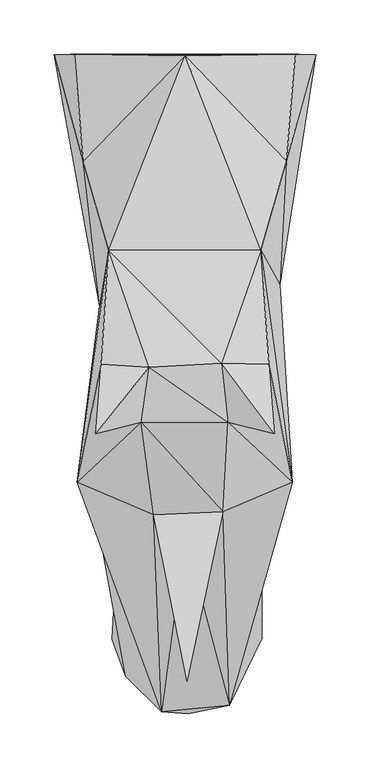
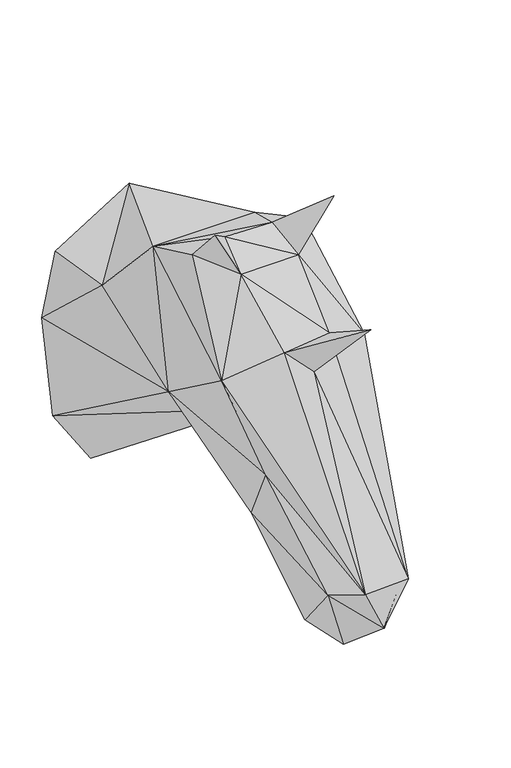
"""IFC4 building model written with IfcOpenShell, lengths in millimetres: geographic element geometry, Enscape AssetDefinition - Unicorn Papertrophy : Enscape AssetDefinition - Unicorn Papertrophy."""

import ifcopenshell
import ifcopenshell.guid

model = None  # the IFC model being written
_history = None  # IfcOwnerHistory: only IFC2X3 demands one
_inside = {}  # id of a spatial element -> (the spatial element, [elements in it])
_under = {}  # id of a project, library or spatial element -> (it, [spatial elements below it])
_declared = {}  # id of a project -> (the project, [libraries it declares])
_typed = {}  # id of a type object -> (the type object, [elements of that type])
_made_of = {}  # id of a material, layer set ... -> (it, [elements and type objects made of it])


def new_model(schema):
    """Start an empty IFC model of exactly this schema.

    Asked for "IFC4X3", IfcOpenShell would pick the latest addendum, in which some entities
    have other attributes; the version numbers below select the first issue.
    IFC2X3 requires an IfcOwnerHistory on every rooted entity: one is made here for all.
    """
    global model, _history
    if schema == "IFC4X3":
        model = ifcopenshell.file(schema_version=(4, 3, 0, 0))
    else:
        model = ifcopenshell.file(schema=schema)
    _inside.clear()
    _under.clear()
    _declared.clear()
    _typed.clear()
    _made_of.clear()
    _history = None
    if model.schema == "IFC2X3":
        org = make("IfcOrganization", Name="unknown")
        user = make(
            "IfcPersonAndOrganization",
            ThePerson=make("IfcPerson", FamilyName="unknown"),
            TheOrganization=org,
        )
        app = make(
            "IfcApplication",
            ApplicationDeveloper=org,
            Version="unknown",
            ApplicationFullName="unknown",
            ApplicationIdentifier="unknown",
        )
        _history = make(
            "IfcOwnerHistory",
            OwningUser=user,
            OwningApplication=app,
            ChangeAction="ADDED",
            CreationDate=0,
        )
    return model


def make(cls, **values):
    """One entity of the class cls with the attributes given. An attribute that is None is left unset."""
    return model.create_entity(
        cls, **{name: value for name, value in values.items() if value is not None}
    )


def rooted(cls, **values):
    """An entity with a GlobalId (a new one), such as an element, a storey or a relation."""
    return make(cls, GlobalId=ifcopenshell.guid.new(), OwnerHistory=_history, **values)


def si_unit(unit_type, name, prefix=None):
    """IfcSIUnit, for example si_unit("LENGTHUNIT", "METRE", prefix="MILLI")."""
    return make("IfcSIUnit", UnitType=unit_type, Prefix=prefix, Name=name)


def assignment(units):
    """IfcUnitAssignment: the units of a project."""
    return None if units is None else make("IfcUnitAssignment", Units=units)


def point(xyz):
    """IfcCartesianPoint."""
    return None if xyz is None else make("IfcCartesianPoint", Coordinates=xyz)


def direction(xyz):
    """IfcDirection."""
    return None if xyz is None else make("IfcDirection", DirectionRatios=xyz)


def frame(location, z_axis=None, x_axis=None):
    """IfcAxis2Placement3D, a coordinate frame: its origin and axes. An axis left out is left unset."""
    return make(
        "IfcAxis2Placement3D",
        Location=point(location),
        Axis=direction(z_axis),
        RefDirection=direction(x_axis),
    )


def origin():
    """The frame at (0, 0, 0) with its axes left unset."""
    return frame((0.0, 0.0, 0.0))


def place(relative_to, where):
    """IfcLocalPlacement: puts the frame where relative to a parent placement (None: the world)."""
    return make(
        "IfcLocalPlacement", PlacementRelTo=relative_to, RelativePlacement=where
    )


def context(
    kind, dimensions, precision=None, world=None, true_north=None, identifier=None
):
    """IfcGeometricRepresentationContext, for example the 3D "Model" context."""
    return make(
        "IfcGeometricRepresentationContext",
        ContextIdentifier=identifier,
        ContextType=kind,
        CoordinateSpaceDimension=dimensions,
        Precision=precision,
        WorldCoordinateSystem=world,
        TrueNorth=true_north,
    )


def project(units=None, contexts=None):
    """IfcProject with its units and contexts."""
    return rooted(
        "IfcProject",
        Name="project",
        RepresentationContexts=contexts,
        UnitsInContext=assignment(units),
    )


def spatial(cls, under=None, at=None, **own):
    """A site, building, storey or space (cls), placed at a placement, below another one or the project."""
    s = rooted(cls, ObjectPlacement=at, **own)
    if under is not None:
        _under.setdefault(under.id(), (under, []))[1].append(s)
    return s


def faces_of(points, faces, orient=None, outer=None):
    """IfcFace entities. A face is a list of loops; a loop is a list of indices into points, from 0.

    orient and outer hold one flag for each loop. By default every Orientation is true, the
    first loop of a face is its IfcFaceOuterBound and the others are IfcFaceBound.
    """
    made = []
    for i, loops in enumerate(faces):
        bounds = []
        for j, loop in enumerate(loops):
            is_outer = j == 0 if outer is None else outer[i][j]
            bounds.append(
                make(
                    "IfcFaceOuterBound" if is_outer else "IfcFaceBound",
                    Bound=make("IfcPolyLoop", Polygon=[points[k] for k in loop]),
                    Orientation=True if orient is None else orient[i][j],
                )
            )
        made.append(make("IfcFace", Bounds=bounds))
    return made


def faceted_brep(points, faces, orient=None, outer=None, voids=None):
    """IfcFacetedBrep: a solid bounded by flat faces; with voids (closed shells), ...WithVoids."""
    shared = [point(p) for p in points]
    hull = make("IfcClosedShell", CfsFaces=faces_of(shared, faces, orient, outer))
    if voids is None:
        return make("IfcFacetedBrep", Outer=hull)
    return make(
        "IfcFacetedBrepWithVoids",
        Outer=hull,
        Voids=[
            make(cls, CfsFaces=faces_of(shared, fs, o, b)) for cls, fs, o, b in voids
        ],
    )


def shape(context_of_items, identifier, shape_type, items):
    """IfcShapeRepresentation: the items that make up one representation, for example the "Body"."""
    return make(
        "IfcShapeRepresentation",
        ContextOfItems=context_of_items,
        RepresentationIdentifier=identifier,
        RepresentationType=shape_type,
        Items=items,
    )


def source(mapping_origin, context_of_items, identifier, shape_type, items):
    """IfcRepresentationMap: a shape defined once, which mapped items show again and again."""
    return make(
        "IfcRepresentationMap",
        MappingOrigin=mapping_origin,
        MappedRepresentation=shape(context_of_items, identifier, shape_type, items),
    )


def transform(
    local_origin,
    x_axis=None,
    y_axis=None,
    z_axis=None,
    scale=None,
    scale2=None,
    scale3=None,
    uniform=True,
):
    """IfcCartesianTransformationOperator3D, or its non-uniform kind. x_axis, y_axis, z_axis: its Axis1, 2, 3."""
    if uniform:
        return make(
            "IfcCartesianTransformationOperator3D",
            Axis1=direction(x_axis),
            Axis2=direction(y_axis),
            LocalOrigin=point(local_origin),
            Scale=scale,
            Axis3=direction(z_axis),
        )
    return make(
        "IfcCartesianTransformationOperator3DnonUniform",
        Axis1=direction(x_axis),
        Axis2=direction(y_axis),
        LocalOrigin=point(local_origin),
        Scale=scale,
        Axis3=direction(z_axis),
        Scale2=scale2,
        Scale3=scale3,
    )


def mapped(mapping_source, mapping_target):
    """IfcMappedItem: shows the shape of a source again, moved by a transform."""
    return make(
        "IfcMappedItem", MappingSource=mapping_source, MappingTarget=mapping_target
    )


def made_of(thing, what):
    """Note that an element or type object is made of a material, layer set ...; save() writes the relation."""
    if what is not None:
        _made_of.setdefault(what.id(), (what, []))[1].append(thing)
    return thing


def element(
    cls,
    number,
    at=None,
    inside=None,
    cuts=None,
    type_object=None,
    material=None,
    context=None,
    identifier="Body",
    shape_type=None,
    held_by="IfcProductDefinitionShape",
    body=None,
    shapes=None,
    **own,
):
    """One element of the class cls, such as IfcWall. Its Tag is "e" and its number.

    at: its placement. inside: the storey or other place that contains it. cuts: it is an
    opening in that element (IfcRelVoidsElement). A single representation is given by context,
    identifier, shape_type and body (its items); several are given by shapes. held_by: the class
    of the entity that holds the representations. save() writes the other relations.
    """
    e = rooted(cls, Tag="e%d" % number, ObjectPlacement=at, **own)
    if body is not None:
        shapes = [shape(context, identifier, shape_type, body)]
    if shapes is not None:
        e.Representation = make(held_by, Representations=shapes)
    if inside is not None:
        _inside.setdefault(inside.id(), (inside, []))[1].append(e)
    if cuts is not None:
        rooted(
            "IfcRelVoidsElement", RelatingBuildingElement=cuts, RelatedOpeningElement=e
        )
    if type_object is not None:
        _typed.setdefault(type_object.id(), (type_object, []))[1].append(e)
    return made_of(e, material)


def aggregate(whole, parts):
    """IfcRelAggregates: a whole, such as a stair, and the parts it consists of."""
    return rooted("IfcRelAggregates", RelatingObject=whole, RelatedObjects=parts)


def save(model, path):
    """Write the relations noted so far, then the file.

    IfcRelAggregates (storeys below a building ...), IfcRelContainedInSpatialStructure (elements
    in a storey), IfcRelDefinesByType, IfcRelAssociatesMaterial and IfcRelDeclares: one each for
    every whole, place, type object, material and project.
    """
    for whole, parts in _under.values():
        aggregate(whole, parts)
    for where, things in _inside.values():
        rooted(
            "IfcRelContainedInSpatialStructure",
            RelatedElements=things,
            RelatingStructure=where,
        )
    for kind, things in _typed.values():
        rooted("IfcRelDefinesByType", RelatedObjects=things, RelatingType=kind)
    for what, things in _made_of.values():
        rooted("IfcRelAssociatesMaterial", RelatedObjects=things, RelatingMaterial=what)
    for by, libraries in _declared.values():
        rooted("IfcRelDeclares", RelatingContext=by, RelatedDefinitions=libraries)
    model.write(path)


def geographic_element_b0080944(model_context):
    return source(origin(), model_context, "Body", "Brep", [
        faceted_brep([(2.7663175, -607.010901, -252.8979778), (-21.7252467, -605.2155495, -195.9536374), (-54.6941347, -572.2087026, -205.2879781), (-75.4251555, -458.3463669, -90.4293358), (-99.3541703, -393.4429288, 16.0955135), (0.0, -443.8720345, 25.1026694), (-29.1017424, -423.5621095, 50.7161692), (41.3068905, -598.9779234, -198.5795796), (-59.4140813, -395.857811, -189.0499741), (-78.7234157, -230.6386828, -106.1111242), (0.0, -486.9277775, -297.3004878), (-67.1652555, -538.1811857, -257.5662136), (45.061104, -415.6695306, -206.9629729), (19.0507546, -243.1678474, -157.978788), (30.6880735, -559.7323179, -290.9224331), (-26.3259262, -560.122788, -294.7716415), (70.930019, -537.2882485, -239.7556007), (71.2339878, -462.208271, -105.8272049), (87.9775435, -211.1309022, -93.5144052), (99.2876738, -393.4967816, 15.9857478), (35.0861065, -420.5498695, 55.7189733), (39.5991839, -338.0247653, 118.4619218), (70.4360753, -179.2934537, 73.6298487), (77.550821, -284.6341133, 127.3413599), (-70.4202428, -179.2860627, 73.6741796), (33.988446, -283.688426, 135.5696023), (93.8521475, -97.1050262, -25.0319541), (0.0, 0.0, 32.6512009), (82.6369971, -348.5939503, 196.666047), (-33.0311581, -287.0637476, 139.4747496), (-77.550821, -284.6341133, 127.3413599), (-40.2873345, -337.8326595, 118.2656139), (-82.6369971, -348.5939503, 196.666047), (-105.5601835, 1.6032186, -272.5450397), (-93.8521475, -97.1050262, -25.0319541), (-120.8503917, 1.1261582, -122.8251308), (-52.8724417, 1.6032186, -353.33395), (105.5601835, 1.6032186, -272.5450397), (52.8724417, 1.6032186, -353.33395), (120.8503917, 1.1261582, -122.8251308), (-102.0930484, 1.6084958, -32.825347), (102.0930484, 1.6084958, -32.825347), (1.9947882, -577.0140886, 166.9711471)], [[[0, 1, 2]], [[3, 1, 4]], [[2, 1, 3]], [[5, 6, 1]], [[0, 7, 1]], [[7, 5, 1]], [[1, 6, 4]], [[8, 3, 9]], [[8, 2, 3]], [[9, 3, 4]], [[8, 10, 11]], [[12, 10, 8]], [[11, 2, 8]], [[13, 8, 9]], [[12, 8, 13]], [[14, 15, 10]], [[10, 16, 14]], [[12, 16, 10]], [[10, 15, 11]], [[15, 2, 11]], [[15, 14, 0]], [[0, 2, 15]], [[14, 16, 0]], [[0, 16, 7]], [[17, 16, 12]], [[7, 16, 17]], [[13, 17, 12]], [[18, 17, 13]], [[17, 18, 19]], [[19, 7, 17]], [[19, 20, 7]], [[7, 20, 5]], [[20, 19, 21]], [[19, 22, 23]], [[18, 22, 19]], [[21, 19, 23]], [[24, 25, 22]], [[22, 26, 27]], [[18, 26, 22]], [[22, 25, 23]], [[24, 22, 27]], [[25, 28, 23]], [[21, 23, 28]], [[29, 25, 24]], [[25, 29, 21]], [[21, 28, 25]], [[29, 24, 30]], [[21, 29, 31]], [[31, 29, 32]], [[32, 29, 30]], [[30, 24, 4]], [[30, 4, 31]], [[30, 31, 32]], [[20, 31, 6]], [[21, 31, 20]], [[6, 31, 4]], [[4, 24, 9]], [[33, 13, 9]], [[34, 9, 24]], [[9, 35, 33]], [[34, 35, 9]], [[36, 13, 33]], [[36, 33, 35]], [[37, 13, 38]], [[18, 13, 37]], [[36, 38, 13]], [[36, 39, 38]], [[36, 27, 39]], [[36, 35, 27]], [[34, 40, 35]], [[27, 35, 40]], [[34, 27, 40]], [[24, 27, 34]], [[27, 26, 41]], [[39, 27, 41]], [[26, 39, 41]], [[18, 39, 26]], [[37, 39, 18]], [[38, 39, 37]], [[42, 6, 5]], [[42, 20, 6]], [[42, 5, 20]]]),
    ])


if __name__ == "__main__":
    model = new_model("IFC4")
    model_context = context("Model", 3, world=origin())
    ifc_project = project(units=[si_unit("LENGTHUNIT", "METRE", prefix="MILLI")], contexts=[model_context])
    site = spatial("IfcSite", under=ifc_project)
    building = spatial("IfcBuilding", under=site)
    placement = place(None, origin())
    geographic_element_shape = geographic_element_b0080944(model_context)
    element("IfcGeographicElement", 1, ObjectType="Enscape AssetDefinition - Unicorn Papertrophy : Enscape AssetDefinition - Unicorn Papertrophy", at=placement, inside=building, context=model_context, shape_type="MappedRepresentation", body=[
        mapped(geographic_element_shape, transform((0.0, 0.0, 0.0), x_axis=(1.0, 0.0, 0.0), y_axis=(0.0, 1.0, 0.0), z_axis=(0.0, 0.0, 1.0))),
    ])
    save(model, "model.ifc")
